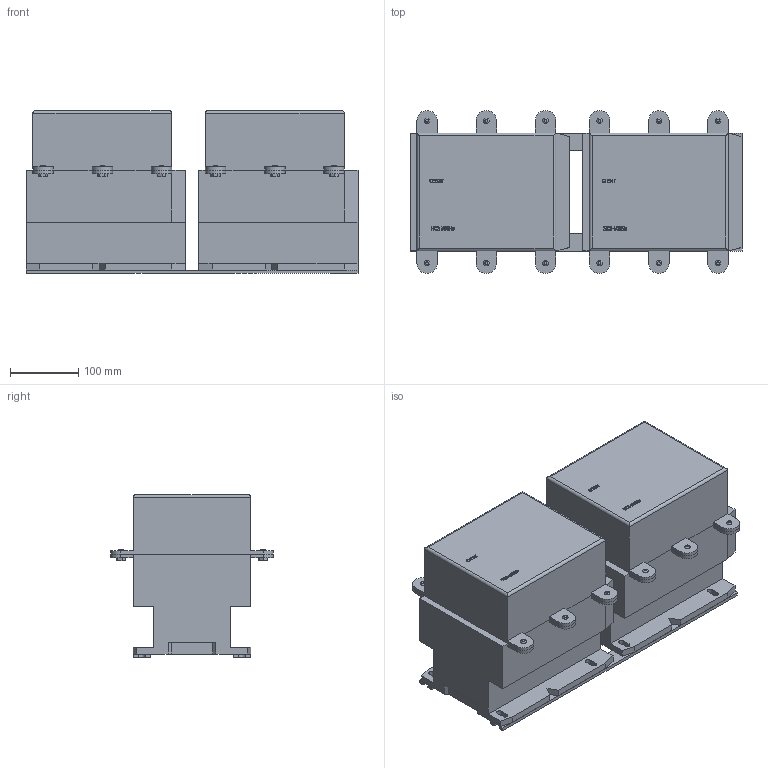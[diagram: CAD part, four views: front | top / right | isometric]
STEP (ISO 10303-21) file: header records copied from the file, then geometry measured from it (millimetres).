
FILE_DESCRIPTION(/* description */ (''),/* implementation_level */ '2;1');
FILE_NAME(/* name */ 'D:\CHINT2\NC2-N\NC2-500Ns 230В 50Гц (горизонтальная установка).stp',/* time_stamp */ '2017-11-12T21:24:38+03:00',/* author */ ('RSagdiev'),/* organization */ (''),/* preprocessor_version */ 'ST-DEVELOPER v16.5',/* originating_system */ 'Autodesk Inventor 2017',/* authorisation */ '');
FILE_SCHEMA (('AUTOMOTIVE_DESIGN { 1 0 10303 214 3 1 1 }'));
Length unit declared in the file: millimetre
Products named in the file (1): NC2-500Ns 230В 50Гц (\X2\0433043E044004380437
043E043D04420430043B044C043D0430044F\X0\ \X2\0443044104420430043D043E0432
043A0430\X0\)
Bounding box: 485 x 238 x 238.1 mm (x, y, z)
Volume: 16268414.4 mm3; surface area: 818308.9 mm2
Topology: 30 solids, 30 shells, 776 faces, 2064 edges, 1380 vertices
Faces by surface type: plane 518, bspline 206, cylinder 52
Entity records: 25832 total; most frequent: CARTESIAN_POINT 7657, ORIENTED_EDGE 4128, DIRECTION 2950, EDGE_CURVE 2064, LINE 1520, VECTOR 1520, VERTEX_POINT 1380, EDGE_LOOP 824
